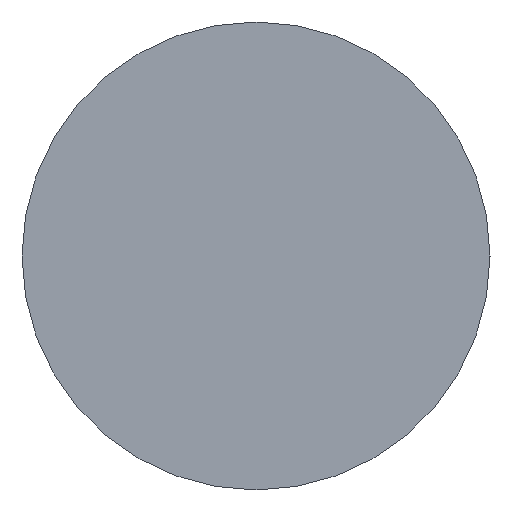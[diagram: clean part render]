
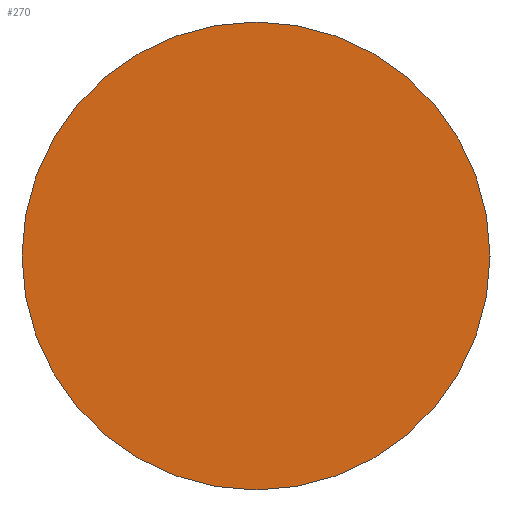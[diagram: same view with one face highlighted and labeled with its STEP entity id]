
A CAD part, left-side view. The second image highlights one B-rep face of the part: STEP entity #270.
In plain terms, the highlighted planar face has unit normal (-1, 0, 0).
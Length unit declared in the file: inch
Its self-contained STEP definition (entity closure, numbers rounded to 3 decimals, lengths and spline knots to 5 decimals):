
#1 = DIRECTION ( 'NONE',  ( -1., 0., 0. ) ) ;
#3 = PLANE ( 'NONE',  #53 ) ;
#4 = EDGE_LOOP ( 'NONE', ( #373, #409 ) ) ;
#15 = EDGE_CURVE ( 'NONE', #96, #285, #273, .T. ) ;
#23 = CARTESIAN_POINT ( 'NONE',  ( -4., 0., 0. ) ) ;
#53 = AXIS2_PLACEMENT_3D ( 'NONE', #253, #82, #267 ) ;
#78 = CIRCLE ( 'NONE', #457, 0.375 ) ;
#82 = DIRECTION ( 'NONE',  ( 1., 0., 0. ) ) ;
#96 = VERTEX_POINT ( 'NONE', #226 ) ;
#139 = DIRECTION ( 'NONE',  ( 0., 0., 1. ) ) ;
#180 = DIRECTION ( 'NONE',  ( 0., 0., 1. ) ) ;
#219 = EDGE_CURVE ( 'NONE', #285, #96, #78, .T. ) ;
#226 = CARTESIAN_POINT ( 'NONE',  ( -4., 0., 0.375 ) ) ;
#253 = CARTESIAN_POINT ( 'NONE',  ( -4., 0.375, 0. ) ) ;
#267 = DIRECTION ( 'NONE',  ( 0., 0., -1. ) ) ;
#270 = ADVANCED_FACE ( 'NONE', ( #328 ), #3, .F. ) ;
#273 = CIRCLE ( 'NONE', #366, 0.375 ) ;
#285 = VERTEX_POINT ( 'NONE', #421 ) ;
#328 = FACE_OUTER_BOUND ( 'NONE', #4, .T. ) ;
#366 = AXIS2_PLACEMENT_3D ( 'NONE', #447, #403, #180 ) ;
#373 = ORIENTED_EDGE ( 'NONE', *, *, #15, .T. ) ;
#403 = DIRECTION ( 'NONE',  ( -1., 0., 0. ) ) ;
#409 = ORIENTED_EDGE ( 'NONE', *, *, #219, .T. ) ;
#421 = CARTESIAN_POINT ( 'NONE',  ( -4., 0., -0.375 ) ) ;
#447 = CARTESIAN_POINT ( 'NONE',  ( -4., 0., 0. ) ) ;
#457 = AXIS2_PLACEMENT_3D ( 'NONE', #23, #1, #139 ) ;
